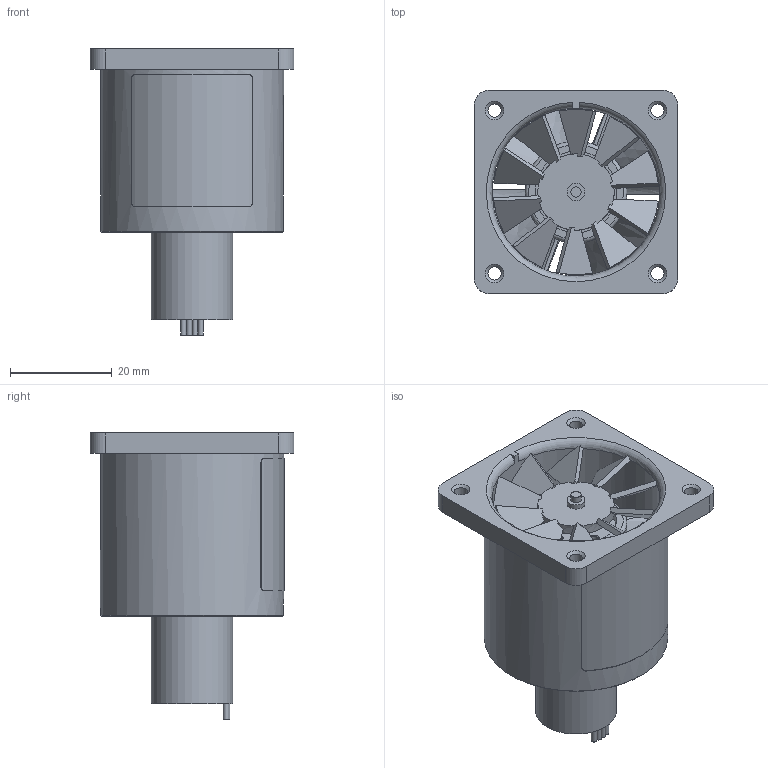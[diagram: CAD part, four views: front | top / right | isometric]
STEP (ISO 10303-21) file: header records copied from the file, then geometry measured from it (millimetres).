
FILE_DESCRIPTION(/* description */ (''),/* implementation_level */ '2;1');
FILE_NAME(/* name */ 'Fan D344P-012024KM-4.stp',/* time_stamp */ '2020-07-06T10:34:41+02:00',/* author */ (''),/* organization */ (''),/* preprocessor_version */ 'ST-DEVELOPER v16',/* originating_system */ 'SIEMENS PLM Software NX 11.0',/* authorisation */ '');
FILE_SCHEMA (('AUTOMOTIVE_DESIGN { 1 0 10303 214 3 1 1 1 }'));
Length unit declared in the file: millimetre
Products named in the file (1): 015815_1-Fan D344P-012024KM-4 _-_
Bounding box: 40 x 40 x 56.2 mm (x, y, z)
Surface area: 16467.8 mm2 (no closed solid volume)
Topology: 0 solids, 1 shells, 233 faces, 619 edges, 409 vertices
Faces by surface type: plane 124, cylinder 57, bspline 32, cone 17, torus 3
Full cylindrical faces by diameter (mm): 1.05 x4, 1.6 x4, 2 x2, 2.5 x1, 2.6 x4, 3.5 x2, 4.7 x1, 15 x1, 16 x2, 20 x1, 33 x1, 36 x1
Entity records: 8535 total; most frequent: CARTESIAN_POINT 2979, ORIENTED_EDGE 1102, DIRECTION 1034, EDGE_CURVE 551, AXIS2_PLACEMENT_3D 395, VERTEX_POINT 390, EDGE_LOOP 315, LINE 244
